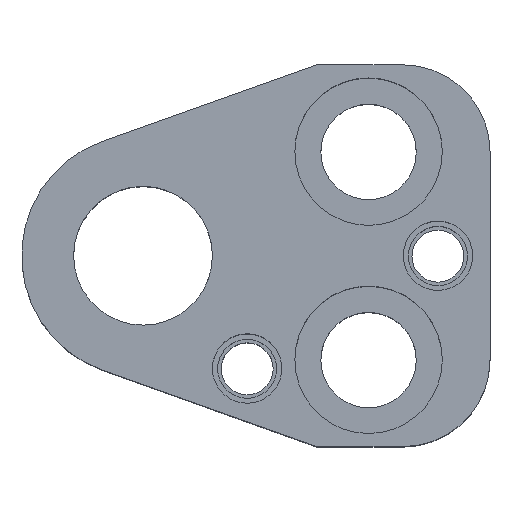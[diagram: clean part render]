
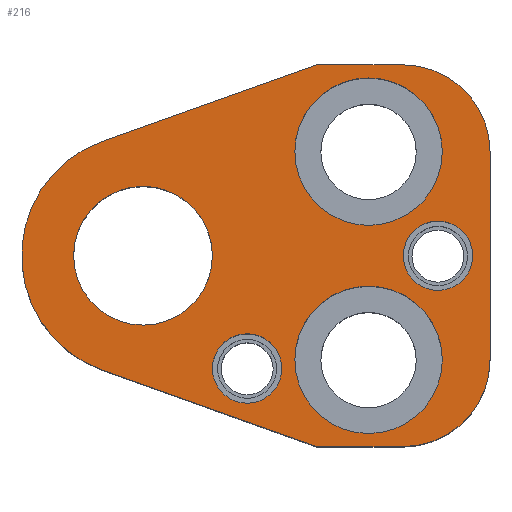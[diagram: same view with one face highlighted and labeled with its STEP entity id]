
A CAD part, top view. The second image highlights one B-rep face of the part: STEP entity #216.
In plain terms, the highlighted planar face has unit normal (0, 0, 1).
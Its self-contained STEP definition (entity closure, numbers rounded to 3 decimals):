
#104=FACE_BOUND('',#309,.T.);
#105=FACE_BOUND('',#310,.T.);
#106=FACE_BOUND('',#311,.T.);
#107=FACE_BOUND('',#312,.T.);
#108=FACE_BOUND('',#313,.T.);
#109=FACE_BOUND('',#314,.T.);
#148=CIRCLE('',#832,10.);
#150=CIRCLE('',#836,10.);
#160=CIRCLE('',#852,8.5);
#162=CIRCLE('',#855,8.5);
#164=CIRCLE('',#859,8.5);
#166=CIRCLE('',#862,8.5);
#168=CIRCLE('',#866,14.);
#169=CIRCLE('',#867,4.);
#170=CIRCLE('',#868,4.);
#171=CIRCLE('',#869,4.);
#172=CIRCLE('',#870,4.);
#173=CIRCLE('',#871,8.);
#174=CIRCLE('',#872,8.);
#216=ADVANCED_FACE('',(#104,#105,#106,#107,#108,#109),#248,.T.);
#248=PLANE('',#873);
#309=EDGE_LOOP('',(#409,#410,#411,#412,#413,#414,#415,#416));
#310=EDGE_LOOP('',(#417,#418));
#311=EDGE_LOOP('',(#419,#420));
#312=EDGE_LOOP('',(#421,#422));
#313=EDGE_LOOP('',(#423,#424));
#314=EDGE_LOOP('',(#425,#426));
#409=ORIENTED_EDGE('',*,*,#627,.T.);
#410=ORIENTED_EDGE('',*,*,#631,.T.);
#411=ORIENTED_EDGE('',*,*,#634,.T.);
#412=ORIENTED_EDGE('',*,*,#637,.T.);
#413=ORIENTED_EDGE('',*,*,#640,.T.);
#414=ORIENTED_EDGE('',*,*,#666,.T.);
#415=ORIENTED_EDGE('',*,*,#667,.T.);
#416=ORIENTED_EDGE('',*,*,#668,.T.);
#417=ORIENTED_EDGE('',*,*,#669,.F.);
#418=ORIENTED_EDGE('',*,*,#670,.F.);
#419=ORIENTED_EDGE('',*,*,#671,.F.);
#420=ORIENTED_EDGE('',*,*,#672,.F.);
#421=ORIENTED_EDGE('',*,*,#664,.F.);
#422=ORIENTED_EDGE('',*,*,#660,.F.);
#423=ORIENTED_EDGE('',*,*,#658,.F.);
#424=ORIENTED_EDGE('',*,*,#654,.F.);
#425=ORIENTED_EDGE('',*,*,#673,.T.);
#426=ORIENTED_EDGE('',*,*,#674,.T.);
#558=VERTEX_POINT('',#1171);
#559=VERTEX_POINT('',#1173);
#562=VERTEX_POINT('',#1180);
#564=VERTEX_POINT('',#1186);
#566=VERTEX_POINT('',#1192);
#568=VERTEX_POINT('',#1198);
#577=VERTEX_POINT('',#1227);
#578=VERTEX_POINT('',#1228);
#581=VERTEX_POINT('',#1240);
#582=VERTEX_POINT('',#1241);
#585=VERTEX_POINT('',#1253);
#586=VERTEX_POINT('',#1255);
#587=VERTEX_POINT('',#1258);
#588=VERTEX_POINT('',#1259);
#589=VERTEX_POINT('',#1262);
#590=VERTEX_POINT('',#1263);
#591=VERTEX_POINT('',#1266);
#592=VERTEX_POINT('',#1267);
#627=EDGE_CURVE('',#559,#558,#731,.T.);
#631=EDGE_CURVE('',#558,#562,#148,.T.);
#634=EDGE_CURVE('',#562,#564,#736,.T.);
#637=EDGE_CURVE('',#564,#566,#150,.T.);
#640=EDGE_CURVE('',#566,#568,#740,.T.);
#654=EDGE_CURVE('',#577,#578,#160,.T.);
#658=EDGE_CURVE('',#578,#577,#162,.T.);
#660=EDGE_CURVE('',#581,#582,#164,.T.);
#664=EDGE_CURVE('',#582,#581,#166,.T.);
#666=EDGE_CURVE('',#568,#585,#750,.T.);
#667=EDGE_CURVE('',#585,#586,#168,.T.);
#668=EDGE_CURVE('',#586,#559,#751,.T.);
#669=EDGE_CURVE('',#587,#588,#169,.T.);
#670=EDGE_CURVE('',#588,#587,#170,.T.);
#671=EDGE_CURVE('',#589,#590,#171,.T.);
#672=EDGE_CURVE('',#590,#589,#172,.T.);
#673=EDGE_CURVE('',#591,#592,#173,.T.);
#674=EDGE_CURVE('',#592,#591,#174,.T.);
#731=LINE('',#1172,#781);
#736=LINE('',#1187,#786);
#740=LINE('',#1199,#790);
#750=LINE('',#1252,#800);
#751=LINE('',#1256,#801);
#781=VECTOR('',#929,1.);
#786=VECTOR('',#942,1.);
#790=VECTOR('',#954,1.);
#800=VECTOR('',#1018,1.);
#801=VECTOR('',#1021,1.);
#832=AXIS2_PLACEMENT_3D('',#1181,#935,#936);
#836=AXIS2_PLACEMENT_3D('',#1193,#947,#948);
#852=AXIS2_PLACEMENT_3D('',#1226,#986,#987);
#855=AXIS2_PLACEMENT_3D('',#1235,#994,#995);
#859=AXIS2_PLACEMENT_3D('',#1239,#1002,#1003);
#862=AXIS2_PLACEMENT_3D('',#1248,#1010,#1011);
#866=AXIS2_PLACEMENT_3D('',#1254,#1019,#1020);
#867=AXIS2_PLACEMENT_3D('',#1257,#1022,#1023);
#868=AXIS2_PLACEMENT_3D('',#1260,#1024,#1025);
#869=AXIS2_PLACEMENT_3D('',#1261,#1026,#1027);
#870=AXIS2_PLACEMENT_3D('',#1264,#1028,#1029);
#871=AXIS2_PLACEMENT_3D('',#1265,#1030,#1031);
#872=AXIS2_PLACEMENT_3D('',#1268,#1032,#1033);
#873=AXIS2_PLACEMENT_3D('',#1269,#1034,#1035);
#929=DIRECTION('',(1.,0.,0.));
#935=DIRECTION('',(0.,0.,1.));
#936=DIRECTION('',(-0.707,0.707,0.));
#942=DIRECTION('',(0.,1.,0.));
#947=DIRECTION('',(0.,0.,1.));
#948=DIRECTION('',(-0.707,-0.707,0.));
#954=DIRECTION('',(-1.,0.,0.));
#986=DIRECTION('',(0.,0.,1.));
#987=DIRECTION('',(-1.,0.,0.));
#994=DIRECTION('',(0.,0.,1.));
#995=DIRECTION('',(1.,0.,0.));
#1002=DIRECTION('',(0.,0.,1.));
#1003=DIRECTION('',(-1.,0.,0.));
#1010=DIRECTION('',(0.,0.,1.));
#1011=DIRECTION('',(1.,0.,0.));
#1018=DIRECTION('',(-0.942,-0.336,0.));
#1019=DIRECTION('',(0.,0.,1.));
#1020=DIRECTION('',(1.,0.,0.));
#1021=DIRECTION('',(0.942,-0.336,0.));
#1022=DIRECTION('',(0.,0.,1.));
#1023=DIRECTION('',(1.,0.,0.));
#1024=DIRECTION('',(0.,0.,1.));
#1025=DIRECTION('',(-1.,0.,0.));
#1026=DIRECTION('',(0.,0.,1.));
#1027=DIRECTION('',(1.,0.,0.));
#1028=DIRECTION('',(0.,0.,1.));
#1029=DIRECTION('',(-1.,0.,0.));
#1030=DIRECTION('',(0.,0.,-1.));
#1031=DIRECTION('',(-1.,0.,0.));
#1032=DIRECTION('',(0.,0.,-1.));
#1033=DIRECTION('',(1.,0.,0.));
#1034=DIRECTION('',(0.,0.,1.));
#1035=DIRECTION('',(0.942,-0.336,0.));
#1171=CARTESIAN_POINT('',(30.,-22.,35.));
#1172=CARTESIAN_POINT('',(20.,-22.,35.));
#1173=CARTESIAN_POINT('',(20.,-22.,35.));
#1180=CARTESIAN_POINT('',(40.,-12.,35.));
#1181=CARTESIAN_POINT('',(30.,-12.,35.));
#1186=CARTESIAN_POINT('',(40.,12.,35.));
#1187=CARTESIAN_POINT('',(40.,12.,35.));
#1192=CARTESIAN_POINT('',(30.,22.,35.));
#1193=CARTESIAN_POINT('',(30.,12.,35.));
#1198=CARTESIAN_POINT('',(20.,22.,35.));
#1199=CARTESIAN_POINT('',(20.,22.,35.));
#1226=CARTESIAN_POINT('',(26.,12.,35.));
#1227=CARTESIAN_POINT('',(26.,3.5,35.));
#1228=CARTESIAN_POINT('',(26.,20.5,35.));
#1235=CARTESIAN_POINT('',(26.,12.,35.));
#1239=CARTESIAN_POINT('',(26.,-12.,35.));
#1240=CARTESIAN_POINT('',(26.,-20.5,35.));
#1241=CARTESIAN_POINT('',(26.,-3.5,35.));
#1248=CARTESIAN_POINT('',(26.,-12.,35.));
#1252=CARTESIAN_POINT('',(20.,22.,35.));
#1253=CARTESIAN_POINT('',(-4.704,13.186,35.));
#1254=CARTESIAN_POINT('',(0.,0.,35.));
#1255=CARTESIAN_POINT('',(-4.704,-13.186,35.));
#1256=CARTESIAN_POINT('',(20.,-22.,35.));
#1257=CARTESIAN_POINT('',(34.,0.,35.));
#1258=CARTESIAN_POINT('',(34.,4.,35.));
#1259=CARTESIAN_POINT('',(34.,-4.,35.));
#1260=CARTESIAN_POINT('',(34.,0.,35.));
#1261=CARTESIAN_POINT('',(12.,-13.,35.));
#1262=CARTESIAN_POINT('',(12.,-9.,35.));
#1263=CARTESIAN_POINT('',(12.,-17.,35.));
#1264=CARTESIAN_POINT('',(12.,-13.,35.));
#1265=CARTESIAN_POINT('',(0.,0.,35.));
#1266=CARTESIAN_POINT('',(0.,8.,35.));
#1267=CARTESIAN_POINT('',(0.,-8.,35.));
#1268=CARTESIAN_POINT('',(0.,0.,35.));
#1269=CARTESIAN_POINT('',(20.,-22.,35.));
